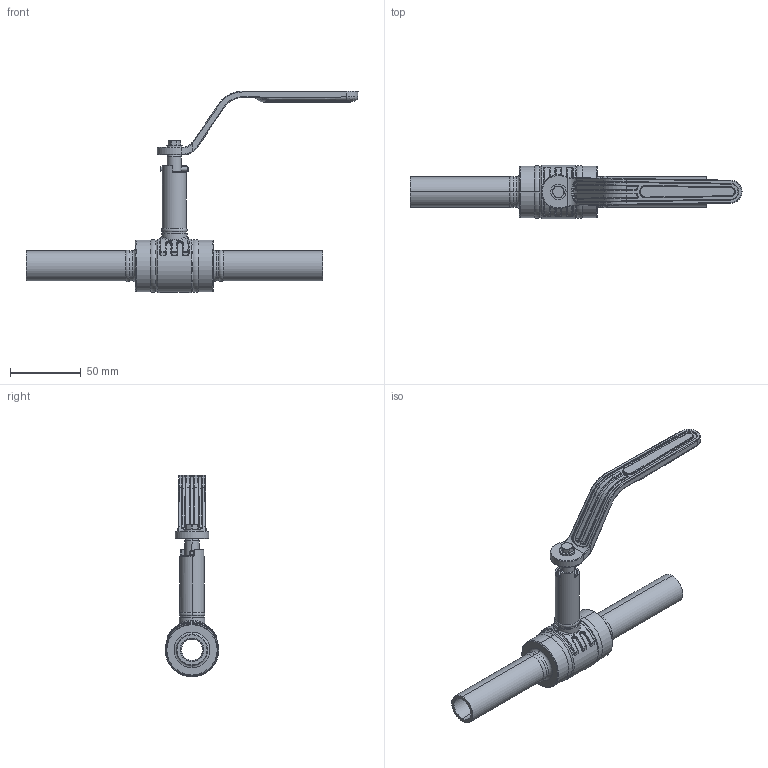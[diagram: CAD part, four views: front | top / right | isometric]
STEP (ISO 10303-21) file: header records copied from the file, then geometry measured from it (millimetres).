
FILE_DESCRIPTION((''),'2;1');
FILE_NAME('KHMO-S-V-H-015P040-VI_SW0001','2022-10-19T08:22:00',('jeitlers'),('KLINGER'),'CREO PARAMETRIC BY PTC INC, 2020184','CREO PARAMETRIC BY PTC INC, 2020184','');
FILE_SCHEMA(('AUTOMOTIVE_DESIGN { 1 0 10303 214 1 1 1 1 }'));
Length unit declared in the file: millimetre
Products named in the file (1): KHMO-S-V-H-015P040-VI_SW0001
Bounding box: 235 x 38 x 142.6 mm (x, y, z)
Volume: 95380.3 mm3; surface area: 51105.8 mm2
Topology: 1 solids, 1 shells, 616 faces, 1382 edges, 785 vertices
Faces by surface type: cylinder 195, bspline 157, plane 97, torus 90, cone 60, sphere 12, extrusion 5
Entity records: 40006 total; most frequent: CARTESIAN_POINT 26524, ORIENTED_EDGE 2758, DIRECTION 2545, EDGE_CURVE 1379, AXIS2_PLACEMENT_3D 1072, VERTEX_POINT 785, EDGE_LOOP 644, FACE_OUTER_BOUND 616
